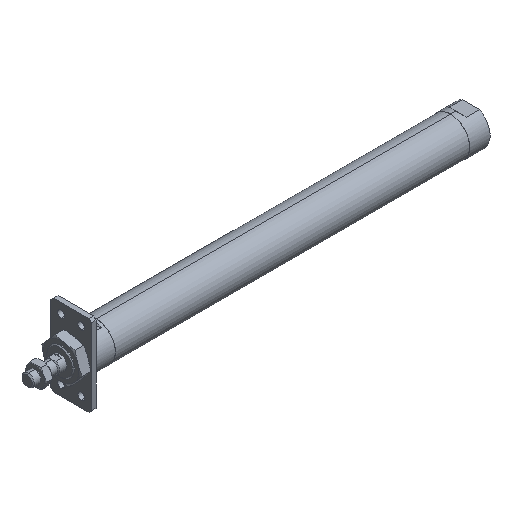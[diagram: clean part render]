
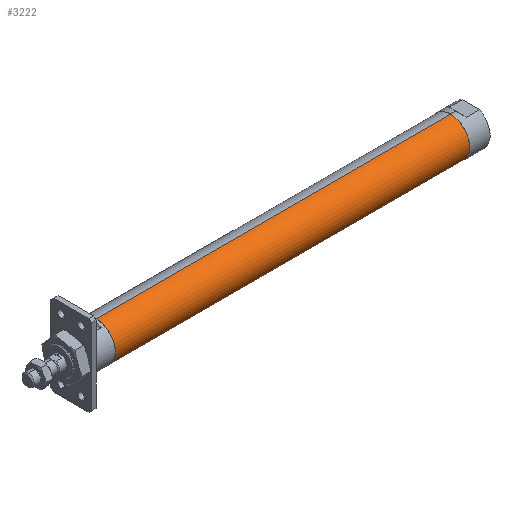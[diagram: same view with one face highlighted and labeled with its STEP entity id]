
A CAD part, isometric view. The second image highlights one B-rep face of the part: STEP entity #3222.
In plain terms, the highlighted cylindrical face has radius 18.8 mm (diameter 37.6 mm), a partial arc.
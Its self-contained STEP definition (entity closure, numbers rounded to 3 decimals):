
#66 = EDGE_CURVE ( 'NONE', #272, #2591, #2593, .T. ) ;
#88 = DIRECTION ( 'NONE',  ( -1., 0., 0. ) ) ;
#100 = CIRCLE ( 'NONE', #1949, 18.8 ) ;
#202 = FACE_OUTER_BOUND ( 'NONE', #320, .T. ) ;
#272 = VERTEX_POINT ( 'NONE', #467 ) ;
#320 = EDGE_LOOP ( 'NONE', ( #3309, #1888, #2255, #3188 ) ) ;
#357 = DIRECTION ( 'NONE',  ( -1., 0., 0. ) ) ;
#409 = VERTEX_POINT ( 'NONE', #2086 ) ;
#467 = CARTESIAN_POINT ( 'NONE',  ( 417., 0., -18.8 ) ) ;
#470 = CARTESIAN_POINT ( 'NONE',  ( 417., 0., 0. ) ) ;
#487 = CYLINDRICAL_SURFACE ( 'NONE', #1324, 18.8 ) ;
#788 = DIRECTION ( 'NONE',  ( 0., 0., 1. ) ) ;
#923 = CARTESIAN_POINT ( 'NONE',  ( 417., 0., 18.8 ) ) ;
#944 = CARTESIAN_POINT ( 'NONE',  ( -1.784, 0., -18.8 ) ) ;
#977 = CARTESIAN_POINT ( 'NONE',  ( -1.784, 0., 18.8 ) ) ;
#1088 = AXIS2_PLACEMENT_3D ( 'NONE', #2597, #88, #2924 ) ;
#1324 = AXIS2_PLACEMENT_3D ( 'NONE', #2274, #357, #1973 ) ;
#1448 = CIRCLE ( 'NONE', #1088, 18.8 ) ;
#1837 = VECTOR ( 'NONE', #2250, 1000. ) ;
#1888 = ORIENTED_EDGE ( 'NONE', *, *, #3970, .T. ) ;
#1949 = AXIS2_PLACEMENT_3D ( 'NONE', #470, #2701, #788 ) ;
#1973 = DIRECTION ( 'NONE',  ( 0., 0., 1. ) ) ;
#2086 = CARTESIAN_POINT ( 'NONE',  ( 68., 0., 18.8 ) ) ;
#2231 = DIRECTION ( 'NONE',  ( -1., 0., 0. ) ) ;
#2250 = DIRECTION ( 'NONE',  ( -1., 0., 0. ) ) ;
#2255 = ORIENTED_EDGE ( 'NONE', *, *, #3705, .T. ) ;
#2274 = CARTESIAN_POINT ( 'NONE',  ( -1.784, 0., 0. ) ) ;
#2591 = VERTEX_POINT ( 'NONE', #2914 ) ;
#2593 = LINE ( 'NONE', #944, #3345 ) ;
#2597 = CARTESIAN_POINT ( 'NONE',  ( 68., 0., 0. ) ) ;
#2688 = LINE ( 'NONE', #977, #1837 ) ;
#2701 = DIRECTION ( 'NONE',  ( -1., 0., 0. ) ) ;
#2914 = CARTESIAN_POINT ( 'NONE',  ( 68., 0., -18.8 ) ) ;
#2924 = DIRECTION ( 'NONE',  ( 0., 0., 1. ) ) ;
#3048 = VERTEX_POINT ( 'NONE', #923 ) ;
#3151 = EDGE_CURVE ( 'NONE', #2591, #409, #1448, .T. ) ;
#3188 = ORIENTED_EDGE ( 'NONE', *, *, #3151, .F. ) ;
#3222 = ADVANCED_FACE ( 'NONE', ( #202 ), #487, .T. ) ;
#3309 = ORIENTED_EDGE ( 'NONE', *, *, #66, .F. ) ;
#3345 = VECTOR ( 'NONE', #2231, 1000. ) ;
#3705 = EDGE_CURVE ( 'NONE', #3048, #409, #2688, .T. ) ;
#3970 = EDGE_CURVE ( 'NONE', #272, #3048, #100, .T. ) ;
